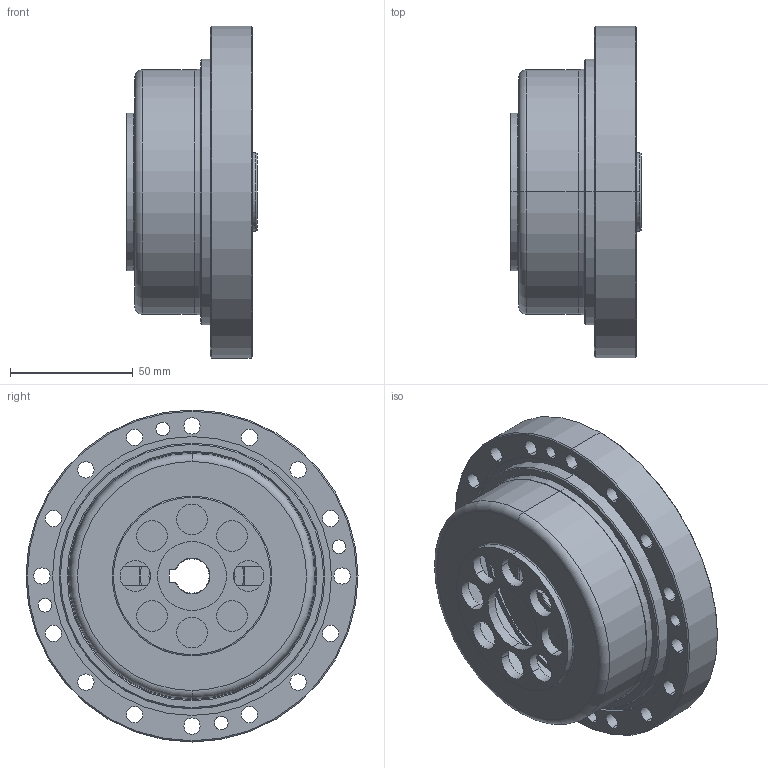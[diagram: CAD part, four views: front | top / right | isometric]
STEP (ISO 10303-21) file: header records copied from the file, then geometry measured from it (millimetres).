
FILE_DESCRIPTION (( 'STEP AP203' ), '1' );
FILE_NAME ('LCSG-40-160-P-II.STEP', '2017-06-05T00:49:11', ( 'Windows 蚚誧' ), ( 'Users' ), 'SwSTEP 2.0', 'SolidWorks 2013', '' );
FILE_SCHEMA (( 'CONFIG_CONTROL_DESIGN' ));
Length unit declared in the file: millimetre
Products named in the file (12): RZC-40悵厥殤; 柔性轴承RZC-40G; LCSG-40-XXX-P01-II; 疏楷汜ん40G-II; LJ-40G-II; LHS-40-XXX-P02-I; SZ-40G-II; LCSG-40-160-P-II; LCSG-40-XXX-P03-II; DB-40G-II; 粣噤32; RZC-40G内外圈+钢球
Assembly tree (11 placements, depth 4):
  LCSG-40-160-P-II
    LCSG-40-XXX-P01-II
    疏楷汜ん40G-II
      LJ-40G-II
      SZ-40G-II
      LCSG-40-XXX-P03-II
      DB-40G-II
      粣噤32
      柔性轴承RZC-40G
        RZC-40G内外圈+钢球
        RZC-40悵厥殤
    LHS-40-XXX-P02-I
Bounding box: 53 x 135 x 135 mm (x, y, z)
Volume: 264179 mm3; surface area: 158344.3 mm2
Topology: 33 solids, 33 shells, 474 faces, 1262 edges, 823 vertices
Faces by surface type: cylinder 213, plane 128, cone 55, sphere 46, torus 32
Entity records: 15633 total; most frequent: DIRECTION 2795, CARTESIAN_POINT 2499, ORIENTED_EDGE 2294, AXIS2_PLACEMENT_3D 1194, EDGE_CURVE 1147, VERTEX_POINT 754, CIRCLE 704, EDGE_LOOP 567
